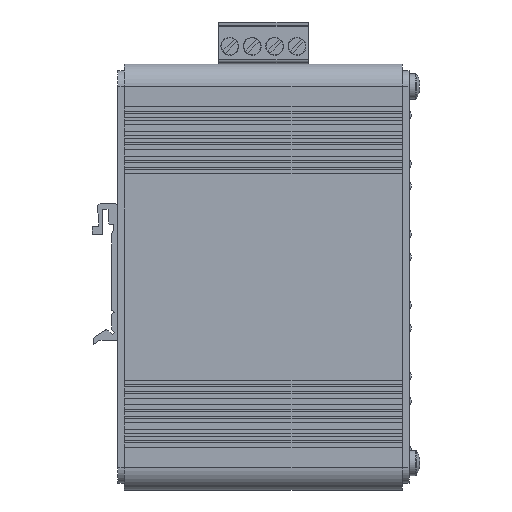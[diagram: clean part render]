
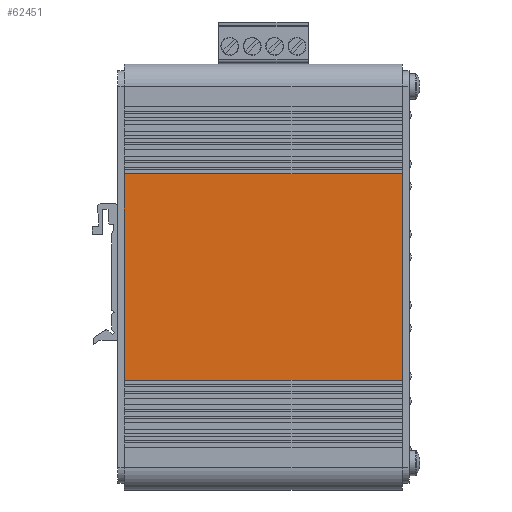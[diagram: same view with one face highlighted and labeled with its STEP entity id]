
A CAD part, left-side view. The second image highlights one B-rep face of the part: STEP entity #62451.
In plain terms, the highlighted planar face has unit normal (-1, 0, 0).
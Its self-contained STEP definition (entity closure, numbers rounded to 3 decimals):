
#3316=PLANE('',#66947);
#10596=LINE('',#101078,#18136);
#10775=LINE('',#101456,#18315);
#10903=LINE('',#101716,#18443);
#10904=LINE('',#101717,#18444);
#18136=VECTOR('',#82456,10.);
#18315=VECTOR('',#82743,10.);
#18443=VECTOR('',#82953,10.);
#18444=VECTOR('',#82954,10.);
#22167=FACE_OUTER_BOUND('',#25561,.T.);
#25561=EDGE_LOOP('',(#58011,#58012,#58013,#58014));
#31993=VERTEX_POINT('',#101074);
#31994=VERTEX_POINT('',#101076);
#32137=VERTEX_POINT('',#101452);
#32139=VERTEX_POINT('',#101455);
#40606=EDGE_CURVE('',#31993,#31994,#10596,.T.);
#40785=EDGE_CURVE('',#32139,#32137,#10775,.T.);
#40913=EDGE_CURVE('',#31994,#32139,#10903,.T.);
#40914=EDGE_CURVE('',#32137,#31993,#10904,.T.);
#58011=ORIENTED_EDGE('',*,*,#40606,.T.);
#58012=ORIENTED_EDGE('',*,*,#40913,.T.);
#58013=ORIENTED_EDGE('',*,*,#40785,.T.);
#58014=ORIENTED_EDGE('',*,*,#40914,.T.);
#62451=ADVANCED_FACE('',(#22167),#3316,.T.);
#66947=AXIS2_PLACEMENT_3D('',#101715,#82951,#82952);
#82456=DIRECTION('',(0.,-1.,0.));
#82743=DIRECTION('',(0.,1.,0.));
#82951=DIRECTION('center_axis',(-1.,0.,0.));
#82952=DIRECTION('ref_axis',(0.,0.,1.));
#82953=DIRECTION('',(0.,0.,1.));
#82954=DIRECTION('',(0.,0.,-1.));
#101074=CARTESIAN_POINT('',(0.,63.5,24.5));
#101076=CARTESIAN_POINT('',(0.,1.5,24.5));
#101078=CARTESIAN_POINT('',(0.,0.75,24.5));
#101452=CARTESIAN_POINT('',(0.,63.5,70.5));
#101455=CARTESIAN_POINT('',(0.,1.5,70.5));
#101456=CARTESIAN_POINT('',(0.,0.75,70.5));
#101715=CARTESIAN_POINT('Origin',(0.,0.,5.));
#101716=CARTESIAN_POINT('',(0.,1.5,26.25));
#101717=CARTESIAN_POINT('',(0.,63.5,26.25));
